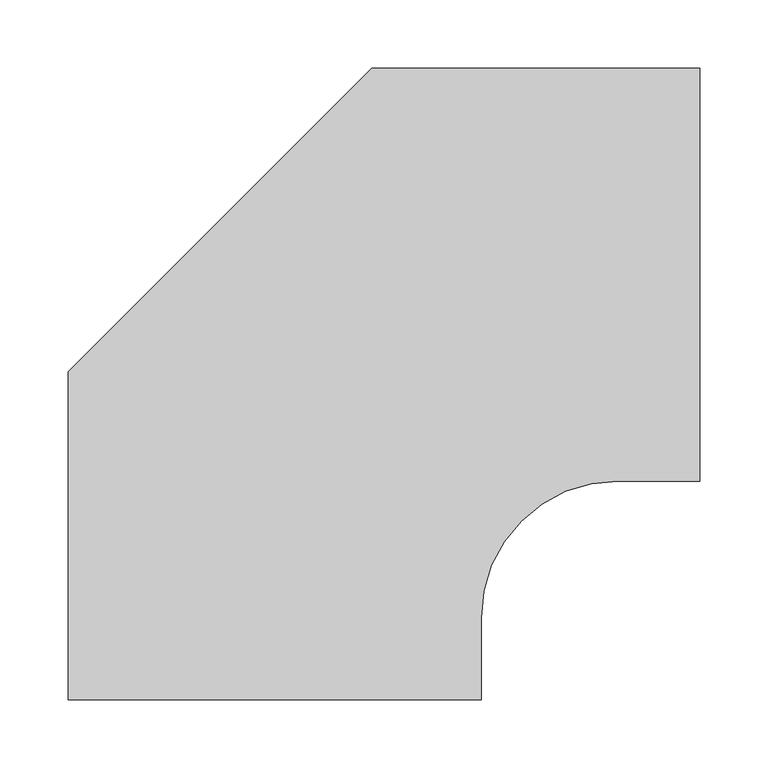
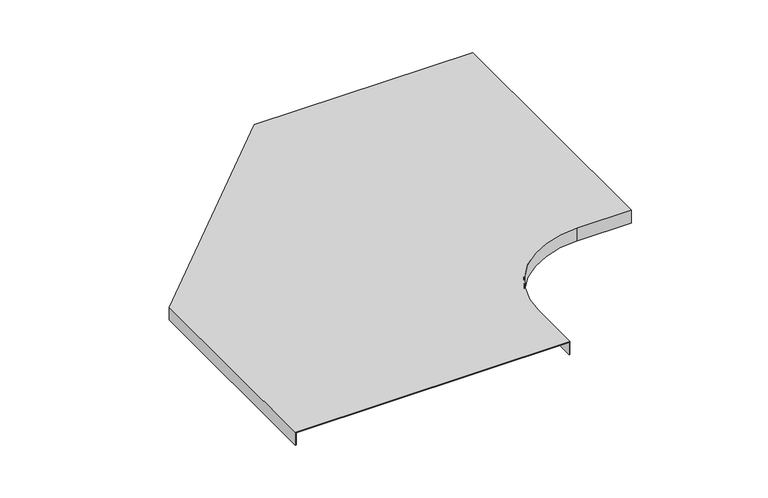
"""IFC4 building model written with IfcOpenShell, lengths in millimetres: proxy geometry, Cable_Tray_Cover_TCPERC_Basortray : Basortray TCPERC 300-GS."""

from ifc_helpers import new_model, si_unit, frame, origin, place, context, project, spatial, polyline, circle_curve, source, transform, mapped, element, save
from ifc_brep_helpers import plane_surface, cylinder_surface, revolved_surface, advanced_brep


def generic_models_8c51f1e9(model_context):
    return source(origin(), model_context, "Body", "AdvancedBrep", [
        advanced_brep(
        [(311.0, 151.0, 1.0), (71.0, 151.0, 1.0), (-151.0, -71.0, 1.0), (-151.0, -311.0, 1.0), (151.0, -311.0, 1.0), (151.0, -251.0, 1.0), (251.0, -151.0, 1.0), (311.0, -151.0, 1.0), (311.0, -151.0, -14.0), (251.0, -151.0, -14.0), (151.0, -251.0, -14.0), (151.0, -311.0, -14.0), (150.0, -311.0, -14.0), (150.0, -251.0, -14.0), (251.0, -150.0, -14.0), (311.0, -150.0, -14.0), (-151.0, -311.0, -14.0), (-151.0, -71.0, -14.0), (71.0, 151.0, -14.0), (311.0, 151.0, -14.0), (311.0, 150.0, -14.0), (71.4142136, 150.0, -14.0), (-150.0, -71.4142136, -14.0), (-150.0, -311.0, -14.0), (-150.0, -311.0, 0.0), (150.0, -311.0, 0.0), (311.0, -150.0, 0.0), (311.0, 150.0, 0.0), (-150.0, -71.4142136, 0.0), (71.4142136, 150.0, 0.0), (251.0, -150.0, 0.0), (150.0, -251.0, 0.0)],
        [
            (0, 1),
            (1, 2),
            (2, 3),
            (3, 4),
            (4, 5),
            (5, 6, circle_curve(frame((251.0, -251.0, 1.0), z_axis=(0.0, 0.0, -1.0), x_axis=(1.0, 0.0, 0.0)), 100.0)),
            (6, 7),
            (7, 0),
            (8, 9),
            (9, 10, circle_curve(frame((251.0, -251.0, -14.0), z_axis=(0.0, 0.0, 1.0), x_axis=(1.0, 0.0, 0.0)), 100.0)),
            (10, 11),
            (11, 12),
            (12, 13),
            (13, 14, circle_curve(frame((251.0, -251.0, -14.0), z_axis=(0.0, 0.0, -1.0), x_axis=(1.0, 0.0, 0.0)), 101.0)),
            (14, 15),
            (15, 8),
            (16, 17),
            (17, 18),
            (18, 19),
            (19, 20),
            (20, 21),
            (21, 22),
            (22, 23),
            (23, 16),
            (0, 19),
            (18, 1),
            (2, 17),
            (16, 3),
            (23, 24),
            (24, 25),
            (25, 12),
            (11, 4),
            (10, 5),
            (9, 6),
            (8, 7),
            (15, 26),
            (26, 27),
            (27, 20),
            (28, 29),
            (29, 27),
            (26, 30),
            (30, 31, circle_curve(frame((251.0, -251.0, 0.0), z_axis=(0.0, 0.0, 1.0), x_axis=(1.0, 0.0, 0.0)), 101.0)),
            (31, 25),
            (24, 28),
            (22, 28),
            (31, 13),
            (30, 14),
            (29, 21),
        ],
        [
            plane_surface(frame((71.0, 151.0, 1.0), z_axis=(0.0, 0.0, 1.0), x_axis=(-1.0, 0.0, 0.0))),
            plane_surface(frame((71.0, 151.0, -14.0), z_axis=(0.0, 0.0, -1.0), x_axis=(1.0, 0.0, 0.0))),
            plane_surface(frame((311.0, 151.0, 1.0), z_axis=(0.0, 1.0, 0.0), x_axis=(0.0, 0.0, -1.0))),
            plane_surface(frame((-151.0, -71.0, 1.0), z_axis=(-1.0, 0.0, 0.0), x_axis=(0.0, 0.0, -1.0))),
            plane_surface(frame((-151.0, -311.0, 1.0), z_axis=(0.0, -1.0, 0.0), x_axis=(0.0, 0.0, -1.0))),
            plane_surface(frame((151.0, -311.0, 1.0), z_axis=(1.0, 0.0, 0.0), x_axis=(0.0, 0.0, -1.0))),
            revolved_surface(polyline([(351.0, -251.0, -14.0), (351.0, -251.0, 1.0)]), (251.0, -251.0, -14.0), (0.0, 0.0, -1.0)),
            plane_surface(frame((251.0, -151.0, 1.0), z_axis=(0.0, -1.0, 0.0), x_axis=(0.0, 0.0, -1.0))),
            plane_surface(frame((311.0, -151.0, 1.0), z_axis=(1.0, 0.0, 0.0), x_axis=(0.0, 0.0, -1.0))),
            plane_surface(frame((71.0, 151.0, 1.0), z_axis=(-0.7071067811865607, 0.7071067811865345, 0.0), x_axis=(0.0, 0.0, -1.0))),
            plane_surface(frame((-150.0, -71.4142136, 0.0), z_axis=(0.0, 0.0, -1.0), x_axis=(0.0, -1.0, 0.0))),
            plane_surface(frame((-150.0, -71.4142136, 0.0), z_axis=(1.0, 0.0, 0.0), x_axis=(0.0, 0.0, -1.0))),
            plane_surface(frame((150.0, -311.0, 0.0), z_axis=(-1.0, 0.0, 0.0), x_axis=(0.0, 0.0, -1.0))),
            cylinder_surface(frame((251.0, -251.0, -14.0), z_axis=(0.0, 0.0, -1.0), x_axis=(1.0, 0.0, 0.0)), 101.0),
            plane_surface(frame((251.0, -150.0, 0.0), z_axis=(0.0, 1.0, 0.0), x_axis=(0.0, 0.0, -1.0))),
            plane_surface(frame((311.0, 150.0, 0.0), z_axis=(0.0, -1.0, 0.0), x_axis=(0.0, 0.0, -1.0))),
            plane_surface(frame((71.4142136, 150.0, 0.0), z_axis=(0.7071067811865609, -0.7071067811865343, 0.0), x_axis=(0.0, 0.0, -1.0))),
        ],
        [
            (0, [[1, 2, 3, 4, 5, 6, 7, 8]]),
            (1, [[9, 10, 11, 12, 13, 14, 15, 16]]),
            (1, [[17, 18, 19, 20, 21, 22, 23, 24]]),
            (2, [[-1, 25, -19, 26]]),
            (3, [[-3, 27, -17, 28]]),
            (4, [[-4, -28, -24, 29, 30, 31, -12, 32]]),
            (5, [[-5, -32, -11, 33]]),
            (6, [[-6, -33, -10, 34]]),
            (7, [[-7, -34, -9, 35]]),
            (8, [[-8, -35, -16, 36, 37, 38, -20, -25]]),
            (9, [[-2, -26, -18, -27]]),
            (10, [[39, 40, -37, 41, 42, 43, -30, 44]]),
            (11, [[-44, -29, -23, 45]]),
            (12, [[-43, 46, -13, -31]]),
            (13, [[-42, 47, -14, -46]]),
            (14, [[-41, -36, -15, -47]]),
            (15, [[-40, 48, -21, -38]]),
            (16, [[-39, -45, -22, -48]]),
        ],
    ),
    ])


if __name__ == "__main__":
    model = new_model("IFC4")
    model_context = context("Model", 3, world=origin())
    ifc_project = project(units=[si_unit("LENGTHUNIT", "METRE", prefix="MILLI")], contexts=[model_context])
    site = spatial("IfcSite", under=ifc_project)
    building = spatial("IfcBuilding", under=site)
    placement = place(None, origin())
    generic_models_shape = generic_models_8c51f1e9(model_context)
    element("IfcBuildingElementProxy", 1, Name="Cable_Tray_Cover_TCPERC_Basortray : Basortray TCPERC 300-GS", ObjectType="Cable_Tray_Cover_TCPERC_Basortray : Basortray TCPERC 300-GS", at=placement, inside=building, context=model_context, shape_type="MappedRepresentation", body=[
        mapped(generic_models_shape, transform((0.0, 0.0, 0.0), x_axis=(1.0, 0.0, 0.0), y_axis=(0.0, 1.0, 0.0), z_axis=(0.0, 0.0, 1.0))),
    ])
    save(model, "model.ifc")
